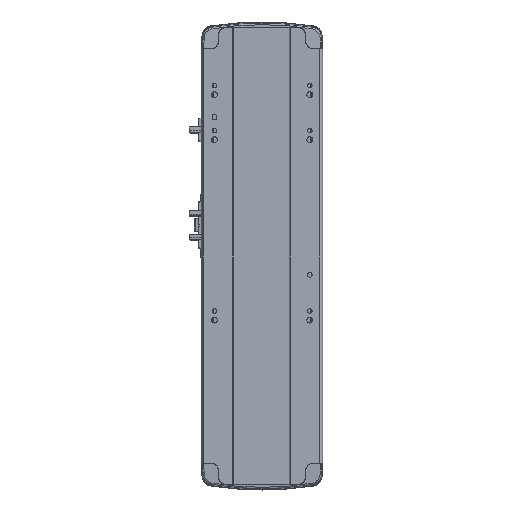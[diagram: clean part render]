
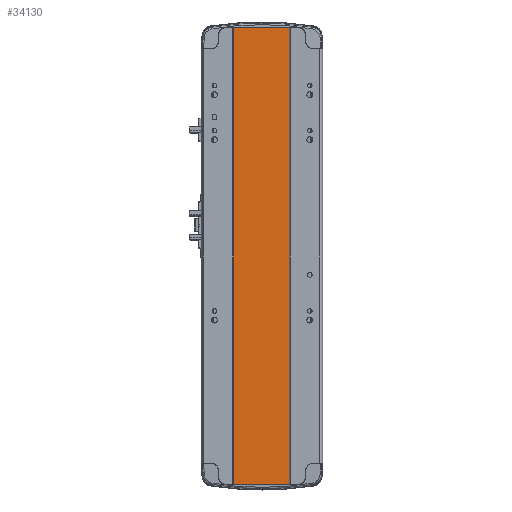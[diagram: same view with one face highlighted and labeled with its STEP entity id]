
A CAD part, front view. The second image highlights one B-rep face of the part: STEP entity #34130.
In plain terms, the highlighted planar face has unit normal (0, -1, 0).
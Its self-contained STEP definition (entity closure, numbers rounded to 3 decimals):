
#930 = DIRECTION ( 'NONE',  ( 0., 0., -1. ) ) ;
#2517 = VERTEX_POINT ( 'NONE', #25694 ) ;
#3462 = DIRECTION ( 'NONE',  ( 0., 1., 0. ) ) ;
#5489 = VECTOR ( 'NONE', #28606, 1000. ) ;
#5881 = VERTEX_POINT ( 'NONE', #25531 ) ;
#6901 = DIRECTION ( 'NONE',  ( 1., 0., 0. ) ) ;
#7644 = CARTESIAN_POINT ( 'NONE',  ( -32., 1., 506. ) ) ;
#10176 = CARTESIAN_POINT ( 'NONE',  ( -32., 1., 506. ) ) ;
#15844 = DIRECTION ( 'NONE',  ( 0., 0., -1. ) ) ;
#16147 = CARTESIAN_POINT ( 'NONE',  ( 30., 1., 506. ) ) ;
#18322 = ORIENTED_EDGE ( 'NONE', *, *, #37238, .F. ) ;
#18764 = EDGE_CURVE ( 'NONE', #21710, #35564, #39628, .T. ) ;
#19245 = ORIENTED_EDGE ( 'NONE', *, *, #18764, .F. ) ;
#21710 = VERTEX_POINT ( 'NONE', #10176 ) ;
#23487 = LINE ( 'NONE', #43277, #32277 ) ;
#24756 = CARTESIAN_POINT ( 'NONE',  ( -32., 1., 0. ) ) ;
#24884 = DIRECTION ( 'NONE',  ( -1., 0., 0. ) ) ;
#24909 = VECTOR ( 'NONE', #6901, 1000. ) ;
#25531 = CARTESIAN_POINT ( 'NONE',  ( 30., 1., 0. ) ) ;
#25694 = CARTESIAN_POINT ( 'NONE',  ( -32., 1., 0. ) ) ;
#26571 = LINE ( 'NONE', #24756, #24909 ) ;
#28606 = DIRECTION ( 'NONE',  ( 1., 0., 0. ) ) ;
#29680 = EDGE_LOOP ( 'NONE', ( #41753, #18322, #19245, #43200 ) ) ;
#29881 = CARTESIAN_POINT ( 'NONE',  ( 30., 1., 506. ) ) ;
#30051 = AXIS2_PLACEMENT_3D ( 'NONE', #31801, #3462, #24884 ) ;
#31801 = CARTESIAN_POINT ( 'NONE',  ( -32., 1., 506. ) ) ;
#32277 = VECTOR ( 'NONE', #930, 1000. ) ;
#34130 = ADVANCED_FACE ( 'NONE', ( #38541 ), #42399, .F. ) ;
#35564 = VERTEX_POINT ( 'NONE', #29881 ) ;
#36429 = EDGE_CURVE ( 'NONE', #21710, #2517, #23487, .T. ) ;
#37238 = EDGE_CURVE ( 'NONE', #35564, #5881, #38852, .T. ) ;
#38541 = FACE_OUTER_BOUND ( 'NONE', #29680, .T. ) ;
#38852 = LINE ( 'NONE', #16147, #41582 ) ;
#39628 = LINE ( 'NONE', #7644, #5489 ) ;
#41582 = VECTOR ( 'NONE', #15844, 1000. ) ;
#41753 = ORIENTED_EDGE ( 'NONE', *, *, #44702, .T. ) ;
#42399 = PLANE ( 'NONE',  #30051 ) ;
#43200 = ORIENTED_EDGE ( 'NONE', *, *, #36429, .T. ) ;
#43277 = CARTESIAN_POINT ( 'NONE',  ( -32., 1., 506. ) ) ;
#44702 = EDGE_CURVE ( 'NONE', #2517, #5881, #26571, .T. ) ;
